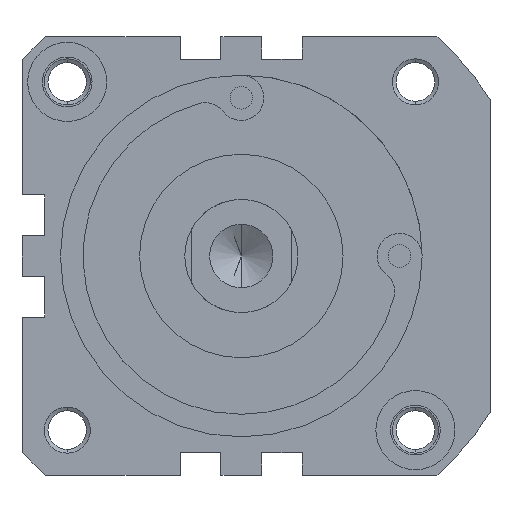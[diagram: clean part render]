
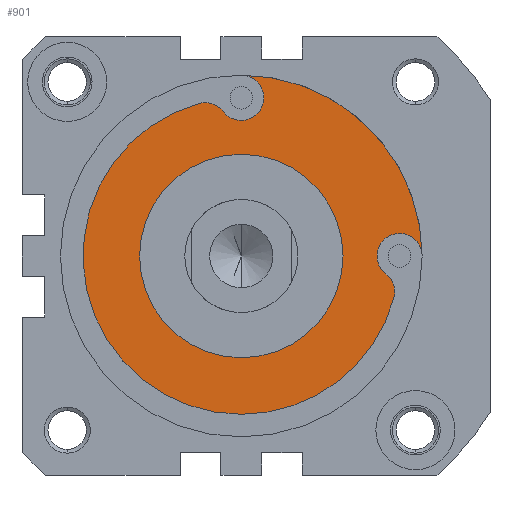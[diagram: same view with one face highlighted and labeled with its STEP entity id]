
A CAD part, front view. The second image highlights one B-rep face of the part: STEP entity #901.
In plain terms, the highlighted planar face has unit normal (0, -1, 0) as drawn and (0, 1, 0) by its records, which use the part's own axes.
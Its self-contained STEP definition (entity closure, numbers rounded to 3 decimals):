
#58 = FACE_OUTER_BOUND ( 'NONE', #3294, .T. ) ;
#62 = CARTESIAN_POINT ( 'NONE',  ( 40., -2., 0. ) ) ;
#79 = AXIS2_PLACEMENT_3D ( 'NONE', #1362, #3266, #3233 ) ;
#138 = VERTEX_POINT ( 'NONE', #1688 ) ;
#150 = DIRECTION ( 'NONE',  ( 0., 0., 1. ) ) ;
#153 = CARTESIAN_POINT ( 'NONE',  ( 31.964, -2., 3.973 ) ) ;
#177 = CARTESIAN_POINT ( 'NONE',  ( 0., -2., 0. ) ) ;
#181 = DIRECTION ( 'NONE',  ( 0., 1., 0. ) ) ;
#193 = EDGE_CURVE ( 'NONE', #3478, #2188, #216, .T. ) ;
#216 = CIRCLE ( 'NONE', #2628, 5. ) ;
#218 = ORIENTED_EDGE ( 'NONE', *, *, #1949, .F. ) ;
#227 = CIRCLE ( 'NONE', #79, 40. ) ;
#273 = EDGE_CURVE ( 'NONE', #1086, #1133, #1023, .T. ) ;
#367 = DIRECTION ( 'NONE',  ( 0., 1., 0. ) ) ;
#370 = DIRECTION ( 'NONE',  ( 0., 0., 1. ) ) ;
#381 = DIRECTION ( 'NONE',  ( 0., 0., 1. ) ) ;
#388 = ORIENTED_EDGE ( 'NONE', *, *, #1563, .F. ) ;
#411 = DIRECTION ( 'NONE',  ( 0., 1., 0. ) ) ;
#458 = CIRCLE ( 'NONE', #3366, 22.5 ) ;
#461 = VERTEX_POINT ( 'NONE', #2440 ) ;
#504 = CIRCLE ( 'NONE', #1021, 5. ) ;
#568 = ORIENTED_EDGE ( 'NONE', *, *, #2192, .T. ) ;
#572 = FACE_BOUND ( 'NONE', #1100, .T. ) ;
#621 = CIRCLE ( 'NONE', #3124, 35. ) ;
#672 = CARTESIAN_POINT ( 'NONE',  ( 0., -2., 0. ) ) ;
#709 = DIRECTION ( 'NONE',  ( 0., 0., 1. ) ) ;
#723 = CARTESIAN_POINT ( 'NONE',  ( -9.27, -2., -33.75 ) ) ;
#817 = CARTESIAN_POINT ( 'NONE',  ( 0., -2., -35. ) ) ;
#865 = CARTESIAN_POINT ( 'NONE',  ( 0., -2., 22.5 ) ) ;
#866 = CIRCLE ( 'NONE', #1542, 22.5 ) ;
#901 = ADVANCED_FACE ( 'NONE', ( #58, #572 ), #2281, .T. ) ;
#902 = CARTESIAN_POINT ( 'NONE',  ( 35., -2., 0. ) ) ;
#955 = AXIS2_PLACEMENT_3D ( 'NONE', #2901, #2651, #1512 ) ;
#1011 = ORIENTED_EDGE ( 'NONE', *, *, #273, .F. ) ;
#1021 = AXIS2_PLACEMENT_3D ( 'NONE', #1972, #367, #2241 ) ;
#1023 = CIRCLE ( 'NONE', #2975, 5. ) ;
#1034 = CARTESIAN_POINT ( 'NONE',  ( 0., -2., 0. ) ) ;
#1086 = VERTEX_POINT ( 'NONE', #2559 ) ;
#1100 = EDGE_LOOP ( 'NONE', ( #1220, #388 ) ) ;
#1133 = VERTEX_POINT ( 'NONE', #2818 ) ;
#1220 = ORIENTED_EDGE ( 'NONE', *, *, #1356, .F. ) ;
#1343 = DIRECTION ( 'NONE',  ( 0., 1., 0. ) ) ;
#1356 = EDGE_CURVE ( 'NONE', #2091, #1709, #458, .T. ) ;
#1362 = CARTESIAN_POINT ( 'NONE',  ( 0., -2., 0. ) ) ;
#1470 = VERTEX_POINT ( 'NONE', #723 ) ;
#1496 = DIRECTION ( 'NONE',  ( 0., 1., 0. ) ) ;
#1512 = DIRECTION ( 'NONE',  ( 0., 0., 1. ) ) ;
#1542 = AXIS2_PLACEMENT_3D ( 'NONE', #1034, #2632, #2096 ) ;
#1563 = EDGE_CURVE ( 'NONE', #1709, #2091, #866, .T. ) ;
#1688 = CARTESIAN_POINT ( 'NONE',  ( -3.973, -2., -31.964 ) ) ;
#1709 = VERTEX_POINT ( 'NONE', #1836 ) ;
#1836 = CARTESIAN_POINT ( 'NONE',  ( 0., -2., -22.5 ) ) ;
#1841 = ORIENTED_EDGE ( 'NONE', *, *, #2646, .T. ) ;
#1949 = EDGE_CURVE ( 'NONE', #2803, #2188, #2979, .T. ) ;
#1972 = CARTESIAN_POINT ( 'NONE',  ( -7.946, -2., -28.929 ) ) ;
#1973 = DIRECTION ( 'NONE',  ( 0., 1., 0. ) ) ;
#2082 = ORIENTED_EDGE ( 'NONE', *, *, #193, .T. ) ;
#2091 = VERTEX_POINT ( 'NONE', #865 ) ;
#2096 = DIRECTION ( 'NONE',  ( 0., 0., 1. ) ) ;
#2188 = VERTEX_POINT ( 'NONE', #153 ) ;
#2192 = EDGE_CURVE ( 'NONE', #1470, #461, #2740, .T. ) ;
#2223 = AXIS2_PLACEMENT_3D ( 'NONE', #817, #1343, #3238 ) ;
#2241 = DIRECTION ( 'NONE',  ( 0., 0., 1. ) ) ;
#2251 = CARTESIAN_POINT ( 'NONE',  ( 0., -2., 0. ) ) ;
#2261 = DIRECTION ( 'NONE',  ( 0., 0., 1. ) ) ;
#2281 = PLANE ( 'NONE',  #2922 ) ;
#2372 = ORIENTED_EDGE ( 'NONE', *, *, #2426, .F. ) ;
#2393 = AXIS2_PLACEMENT_3D ( 'NONE', #902, #2789, #3060 ) ;
#2426 = EDGE_CURVE ( 'NONE', #138, #1086, #3468, .T. ) ;
#2440 = CARTESIAN_POINT ( 'NONE',  ( 0., -2., 35. ) ) ;
#2559 = CARTESIAN_POINT ( 'NONE',  ( 0., -2., -30. ) ) ;
#2562 = CARTESIAN_POINT ( 'NONE',  ( 28.929, -2., 7.946 ) ) ;
#2604 = CARTESIAN_POINT ( 'NONE',  ( 0., -2., -35. ) ) ;
#2628 = AXIS2_PLACEMENT_3D ( 'NONE', #2562, #1496, #150 ) ;
#2632 = DIRECTION ( 'NONE',  ( 0., 1., 0. ) ) ;
#2646 = EDGE_CURVE ( 'NONE', #138, #1470, #504, .T. ) ;
#2651 = DIRECTION ( 'NONE',  ( 0., 1., 0. ) ) ;
#2740 = CIRCLE ( 'NONE', #955, 35. ) ;
#2789 = DIRECTION ( 'NONE',  ( 0., 1., 0. ) ) ;
#2803 = VERTEX_POINT ( 'NONE', #62 ) ;
#2818 = CARTESIAN_POINT ( 'NONE',  ( 0., -2., -40. ) ) ;
#2848 = ORIENTED_EDGE ( 'NONE', *, *, #3390, .T. ) ;
#2873 = ORIENTED_EDGE ( 'NONE', *, *, #2899, .T. ) ;
#2899 = EDGE_CURVE ( 'NONE', #461, #3478, #621, .T. ) ;
#2901 = CARTESIAN_POINT ( 'NONE',  ( 0., -2., 0. ) ) ;
#2922 = AXIS2_PLACEMENT_3D ( 'NONE', #672, #3364, #381 ) ;
#2975 = AXIS2_PLACEMENT_3D ( 'NONE', #2604, #181, #709 ) ;
#2979 = CIRCLE ( 'NONE', #2393, 5. ) ;
#3060 = DIRECTION ( 'NONE',  ( 0., 0., 1. ) ) ;
#3124 = AXIS2_PLACEMENT_3D ( 'NONE', #2251, #1973, #370 ) ;
#3172 = CARTESIAN_POINT ( 'NONE',  ( 33.75, -2., 9.27 ) ) ;
#3233 = DIRECTION ( 'NONE',  ( 0., 0., 1. ) ) ;
#3238 = DIRECTION ( 'NONE',  ( 0., 0., 1. ) ) ;
#3266 = DIRECTION ( 'NONE',  ( 0., 1., 0. ) ) ;
#3294 = EDGE_LOOP ( 'NONE', ( #568, #2873, #2082, #218, #2848, #1011, #2372, #1841 ) ) ;
#3364 = DIRECTION ( 'NONE',  ( 0., 1., 0. ) ) ;
#3366 = AXIS2_PLACEMENT_3D ( 'NONE', #177, #411, #2261 ) ;
#3390 = EDGE_CURVE ( 'NONE', #2803, #1133, #227, .T. ) ;
#3468 = CIRCLE ( 'NONE', #2223, 5. ) ;
#3478 = VERTEX_POINT ( 'NONE', #3172 ) ;
